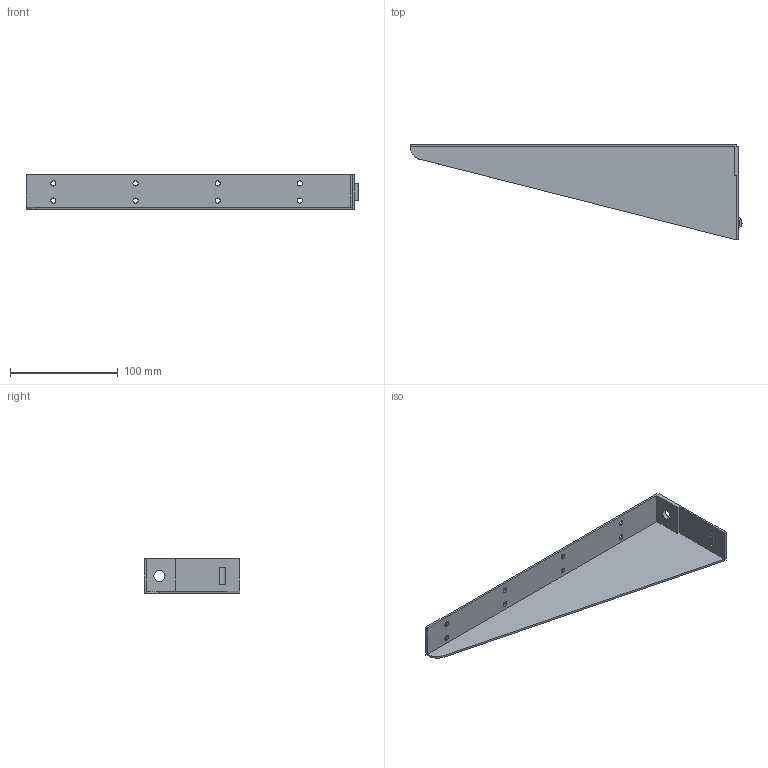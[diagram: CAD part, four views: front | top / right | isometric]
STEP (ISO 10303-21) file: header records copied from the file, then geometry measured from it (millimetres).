
FILE_DESCRIPTION(('TurboCAD Mac Pro'),'Build 980');
FILE_NAME('A2494L.stp',' ',(''),(''),'ACIS Interop','IMSI','TurboCAD Mac Pro BY IMSI, INCORPORATED');
FILE_SCHEMA(('automotive_design'));
Length unit declared in the file: inch
Products named in the file (1): 1
Bounding box: 307.97 x 88.9 x 31.75 mm (x, y, z)
Volume: 52586.8 mm3; surface area: 55723.4 mm2
Topology: 1 solids, 1 shells, 62 faces, 177 edges, 116 vertices
Faces by surface type: bspline 42, plane 20
Entity records: 2807 total; most frequent: CARTESIAN_POINT 910, ORIENTED_EDGE 354, EDGE_CURVE 177, DIRECTION 143, VERTEX_POINT 116, LINE 93, VECTOR 93, EDGE_LOOP 83
